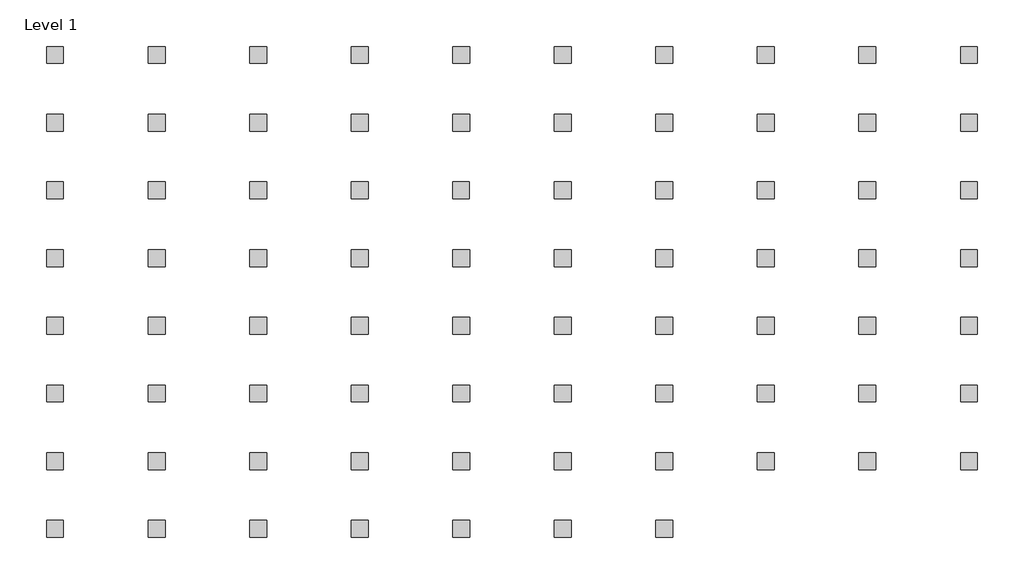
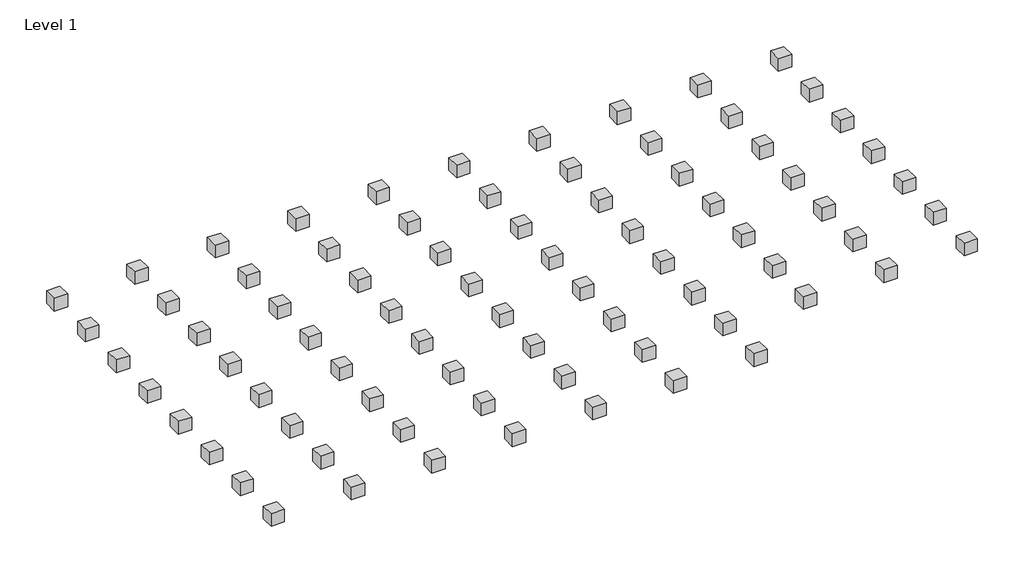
# One storey: 77 proxies.
"""IFC4 building model written with IfcOpenShell, lengths in millimetres."""

from ifc_helpers import new_model, si_unit, origin, place, context, project, spatial, transform, mapped, element, save
from components import proxy_1_2782416e, proxy_1_50e8c4e9, proxy_1_2d494ee5, proxy_1_6aff34ba, proxy_1_c3146b91, proxy_1_25e3fa1a, proxy_1_d043c502, proxy_1_c316cd3d, proxy_1_49adc76c, proxy_1_80903762, proxy_1_ae793e1a, proxy_1_2479e5df, proxy_1_aba14420, proxy_1_f1478c7e, proxy_1_89ec94bb, proxy_1_3710970e, proxy_1_aa82681c, proxy_1_0407d41d, proxy_1_ce66b29a, proxy_1_f5038394, proxy_1_b9940bfe, proxy_1_ebdf1aab, proxy_1_f2e2dbd0, proxy_1_6ed665f9, proxy_1_9805320a, proxy_1_b6302ffd, proxy_1_f575b489, proxy_1_a421b6c0, proxy_1_089240f8, proxy_1_e380e4dc, proxy_1_bed377d2, proxy_1_b49bc99f, proxy_1_c01c13fc, proxy_1_d7b62491, proxy_1_11dc02ac, proxy_1_2fb2cb73, proxy_1_e48f2c8b, proxy_1_ef48607b, proxy_1_42d40aa6, proxy_1_d886f2ce, proxy_1_1_93c13270, proxy_12_1_cf9d7331, proxy_121_1_6d52ab04, proxy_122_1_a73eb2b4, proxy_1221_1_1ebcc772, proxy_12211_1_91fec649, proxy_122111_1_8a0e9cde, proxy_1222_1_645f6b2f, proxy_12221_1_fe18749b, proxy_122211_1_c931f82f, proxy_122212_1_969e0d6c, proxy_12222_1_6f8a0e2f, proxy_122221_1_a3bcdc7e, proxy_1223_1_8651d323, proxy_12231_1_e93e3e78, proxy_122311_1_c1ad2dc2, proxy_123_1_c0a6e036, proxy_1231_1_4cfde164, proxy_12311_1_553b1de8, proxy_123111_1_0379a0e4, proxy_124_1_e1c1178d, proxy_1241_1_b3bbd234, proxy_12411_1_0cb6ce3b, proxy_124111_1_333161a3, proxy_125_1_ba956c72, proxy_1251_1_fea39731, proxy_12511_1_5074e58f, proxy_125111_1_22ede781, proxy_126_1_2db42401, proxy_1261_1_7993b1d7, proxy_12611_1_bfa230e9, proxy_127_1_18f8452b, proxy_1271_1_d034cdbb, proxy_12711_1_b4b7b839, proxy_128_1_ce818b8a, proxy_1281_1_40a85a4f, proxy_129_1_60290f64

model = new_model("IFC4")

# Units and contexts
model_context = context("Model", 3, world=origin())
ifc_project = project(units=[si_unit("LENGTHUNIT", "METRE", prefix="MILLI")], contexts=[model_context])

# Site, building, storey
site = spatial("IfcSite", under=ifc_project)
building = spatial("IfcBuilding", under=site)
storey = spatial("IfcBuildingStorey", under=building, Name="Level 1", Elevation=0.0)

# Proxies
placement = place(None, origin())
proxy_1_shape = proxy_1_2782416e(model_context)
element("IfcBuildingElementProxy", 1, Name="1221111 : 1", ObjectType="1221111 : 1", at=placement, inside=storey, context=model_context, shape_type="MappedRepresentation", body=[
    mapped(proxy_1_shape, transform((0.0, -6000.0, 0.0), x_axis=(1.0, 0.0, 0.0), y_axis=(0.0, 1.0, 0.0), z_axis=(0.0, 0.0, 1.0))),
])
proxy_1_2_shape = proxy_1_50e8c4e9(model_context)
element("IfcBuildingElementProxy", 2, Name="1222111 : 1", ObjectType="1222111 : 1", at=placement, inside=storey, context=model_context, shape_type="MappedRepresentation", body=[
    mapped(proxy_1_2_shape, transform((0.0, 0.0, 0.0), x_axis=(1.0, 0.0, 0.0), y_axis=(0.0, 1.0, 0.0), z_axis=(0.0, 0.0, 1.0))),
])
proxy_1_3_shape = proxy_1_2d494ee5(model_context)
element("IfcBuildingElementProxy", 3, Name="12211111 : 1", ObjectType="12211111 : 1", at=placement, inside=storey, context=model_context, shape_type="MappedRepresentation", body=[
    mapped(proxy_1_3_shape, transform((0.0, 0.0, 0.0), x_axis=(1.0, 0.0, 0.0), y_axis=(0.0, 1.0, 0.0), z_axis=(0.0, 0.0, 1.0))),
])
proxy_1_4_shape = proxy_1_6aff34ba(model_context)
element("IfcBuildingElementProxy", 4, Name="12221111 : 1", ObjectType="12221111 : 1", at=placement, inside=storey, context=model_context, shape_type="MappedRepresentation", body=[
    mapped(proxy_1_4_shape, transform((0.0, 0.0, 0.0), x_axis=(1.0, 0.0, 0.0), y_axis=(0.0, 1.0, 0.0), z_axis=(0.0, 0.0, 1.0))),
])
proxy_1_5_shape = proxy_1_c3146b91(model_context)
element("IfcBuildingElementProxy", 5, Name="122111111 : 1", ObjectType="122111111 : 1", at=placement, inside=storey, context=model_context, shape_type="MappedRepresentation", body=[
    mapped(proxy_1_5_shape, transform((0.0, 0.0, 0.0), x_axis=(1.0, 0.0, 0.0), y_axis=(0.0, 1.0, 0.0), z_axis=(0.0, 0.0, 1.0))),
])
proxy_1_6_shape = proxy_1_25e3fa1a(model_context)
element("IfcBuildingElementProxy", 6, Name="122211111 : 1", ObjectType="122211111 : 1", at=placement, inside=storey, context=model_context, shape_type="MappedRepresentation", body=[
    mapped(proxy_1_6_shape, transform((0.0, 0.0, 0.0), x_axis=(1.0, 0.0, 0.0), y_axis=(0.0, 1.0, 0.0), z_axis=(0.0, 0.0, 1.0))),
])
proxy_1_7_shape = proxy_1_d043c502(model_context)
element("IfcBuildingElementProxy", 7, Name="1221111111 : 1", ObjectType="1221111111 : 1", at=placement, inside=storey, context=model_context, shape_type="MappedRepresentation", body=[
    mapped(proxy_1_7_shape, transform((0.0, 0.0, 0.0), x_axis=(1.0, 0.0, 0.0), y_axis=(0.0, 1.0, 0.0), z_axis=(0.0, 0.0, 1.0))),
])
proxy_1_8_shape = proxy_1_c316cd3d(model_context)
element("IfcBuildingElementProxy", 8, Name="1222111111 : 1", ObjectType="1222111111 : 1", at=placement, inside=storey, context=model_context, shape_type="MappedRepresentation", body=[
    mapped(proxy_1_8_shape, transform((0.0, 0.0, 0.0), x_axis=(1.0, 0.0, 0.0), y_axis=(0.0, 1.0, 0.0), z_axis=(0.0, 0.0, 1.0))),
])
proxy_1_9_shape = proxy_1_49adc76c(model_context)
element("IfcBuildingElementProxy", 9, Name="12211111111 : 1", ObjectType="12211111111 : 1", at=placement, inside=storey, context=model_context, shape_type="MappedRepresentation", body=[
    mapped(proxy_1_9_shape, transform((0.0, 0.0, 0.0), x_axis=(1.0, 0.0, 0.0), y_axis=(0.0, 1.0, 0.0), z_axis=(0.0, 0.0, 1.0))),
])
proxy_1_10_shape = proxy_1_80903762(model_context)
element("IfcBuildingElementProxy", 10, Name="12221111111 : 1", ObjectType="12221111111 : 1", at=placement, inside=storey, context=model_context, shape_type="MappedRepresentation", body=[
    mapped(proxy_1_10_shape, transform((0.0, 0.0, 0.0), x_axis=(1.0, 0.0, 0.0), y_axis=(0.0, 1.0, 0.0), z_axis=(0.0, 0.0, 1.0))),
])
proxy_1_11_shape = proxy_1_ae793e1a(model_context)
element("IfcBuildingElementProxy", 11, Name="1222112 : 1", ObjectType="1222112 : 1", at=placement, inside=storey, context=model_context, shape_type="MappedRepresentation", body=[
    mapped(proxy_1_11_shape, transform((0.0, 0.0, 0.0), x_axis=(1.0, 0.0, 0.0), y_axis=(0.0, 1.0, 0.0), z_axis=(0.0, 0.0, 1.0))),
])
proxy_1_12_shape = proxy_1_2479e5df(model_context)
element("IfcBuildingElementProxy", 12, Name="12221112 : 1", ObjectType="12221112 : 1", at=placement, inside=storey, context=model_context, shape_type="MappedRepresentation", body=[
    mapped(proxy_1_12_shape, transform((0.0, 0.0, 0.0), x_axis=(1.0, 0.0, 0.0), y_axis=(0.0, 1.0, 0.0), z_axis=(0.0, 0.0, 1.0))),
])
proxy_1_13_shape = proxy_1_aba14420(model_context)
element("IfcBuildingElementProxy", 13, Name="122211112 : 1", ObjectType="122211112 : 1", at=placement, inside=storey, context=model_context, shape_type="MappedRepresentation", body=[
    mapped(proxy_1_13_shape, transform((0.0, 0.0, 0.0), x_axis=(1.0, 0.0, 0.0), y_axis=(0.0, 1.0, 0.0), z_axis=(0.0, 0.0, 1.0))),
])
proxy_1_14_shape = proxy_1_f1478c7e(model_context)
element("IfcBuildingElementProxy", 14, Name="1222111112 : 1", ObjectType="1222111112 : 1", at=placement, inside=storey, context=model_context, shape_type="MappedRepresentation", body=[
    mapped(proxy_1_14_shape, transform((0.0, 0.0, 0.0), x_axis=(1.0, 0.0, 0.0), y_axis=(0.0, 1.0, 0.0), z_axis=(0.0, 0.0, 1.0))),
])
proxy_1_15_shape = proxy_1_89ec94bb(model_context)
element("IfcBuildingElementProxy", 15, Name="12221111112 : 1", ObjectType="12221111112 : 1", at=placement, inside=storey, context=model_context, shape_type="MappedRepresentation", body=[
    mapped(proxy_1_15_shape, transform((0.0, 0.0, 0.0), x_axis=(1.0, 0.0, 0.0), y_axis=(0.0, 1.0, 0.0), z_axis=(0.0, 0.0, 1.0))),
])
proxy_1_16_shape = proxy_1_3710970e(model_context)
element("IfcBuildingElementProxy", 16, Name="1222121 : 1", ObjectType="1222121 : 1", at=placement, inside=storey, context=model_context, shape_type="MappedRepresentation", body=[
    mapped(proxy_1_16_shape, transform((0.0, 0.0, 0.0), x_axis=(1.0, 0.0, 0.0), y_axis=(0.0, 1.0, 0.0), z_axis=(0.0, 0.0, 1.0))),
])
proxy_1_17_shape = proxy_1_aa82681c(model_context)
element("IfcBuildingElementProxy", 17, Name="12221121 : 1", ObjectType="12221121 : 1", at=placement, inside=storey, context=model_context, shape_type="MappedRepresentation", body=[
    mapped(proxy_1_17_shape, transform((0.0, 0.0, 0.0), x_axis=(1.0, 0.0, 0.0), y_axis=(0.0, 1.0, 0.0), z_axis=(0.0, 0.0, 1.0))),
])
proxy_1_18_shape = proxy_1_0407d41d(model_context)
element("IfcBuildingElementProxy", 18, Name="122211121 : 1", ObjectType="122211121 : 1", at=placement, inside=storey, context=model_context, shape_type="MappedRepresentation", body=[
    mapped(proxy_1_18_shape, transform((0.0, 0.0, 0.0), x_axis=(1.0, 0.0, 0.0), y_axis=(0.0, 1.0, 0.0), z_axis=(0.0, 0.0, 1.0))),
])
proxy_1_19_shape = proxy_1_ce66b29a(model_context)
element("IfcBuildingElementProxy", 19, Name="1222111121 : 1", ObjectType="1222111121 : 1", at=placement, inside=storey, context=model_context, shape_type="MappedRepresentation", body=[
    mapped(proxy_1_19_shape, transform((0.0, 0.0, 0.0), x_axis=(1.0, 0.0, 0.0), y_axis=(0.0, 1.0, 0.0), z_axis=(0.0, 0.0, 1.0))),
])
proxy_1_20_shape = proxy_1_f5038394(model_context)
element("IfcBuildingElementProxy", 20, Name="12221111121 : 1", ObjectType="12221111121 : 1", at=placement, inside=storey, context=model_context, shape_type="MappedRepresentation", body=[
    mapped(proxy_1_20_shape, transform((0.0, 0.0, 0.0), x_axis=(1.0, 0.0, 0.0), y_axis=(0.0, 1.0, 0.0), z_axis=(0.0, 0.0, 1.0))),
])
proxy_1_21_shape = proxy_1_b9940bfe(model_context)
element("IfcBuildingElementProxy", 21, Name="1222211 : 1", ObjectType="1222211 : 1", at=placement, inside=storey, context=model_context, shape_type="MappedRepresentation", body=[
    mapped(proxy_1_21_shape, transform((0.0, 0.0, 0.0), x_axis=(1.0, 0.0, 0.0), y_axis=(0.0, 1.0, 0.0), z_axis=(0.0, 0.0, 1.0))),
])
proxy_1_22_shape = proxy_1_ebdf1aab(model_context)
element("IfcBuildingElementProxy", 22, Name="12221211 : 1", ObjectType="12221211 : 1", at=placement, inside=storey, context=model_context, shape_type="MappedRepresentation", body=[
    mapped(proxy_1_22_shape, transform((0.0, 0.0, 0.0), x_axis=(1.0, 0.0, 0.0), y_axis=(0.0, 1.0, 0.0), z_axis=(0.0, 0.0, 1.0))),
])
proxy_1_23_shape = proxy_1_f2e2dbd0(model_context)
element("IfcBuildingElementProxy", 23, Name="122211211 : 1", ObjectType="122211211 : 1", at=placement, inside=storey, context=model_context, shape_type="MappedRepresentation", body=[
    mapped(proxy_1_23_shape, transform((0.0, 0.0, 0.0), x_axis=(1.0, 0.0, 0.0), y_axis=(0.0, 1.0, 0.0), z_axis=(0.0, 0.0, 1.0))),
])
proxy_1_24_shape = proxy_1_6ed665f9(model_context)
element("IfcBuildingElementProxy", 24, Name="1222111211 : 1", ObjectType="1222111211 : 1", at=placement, inside=storey, context=model_context, shape_type="MappedRepresentation", body=[
    mapped(proxy_1_24_shape, transform((0.0, 0.0, 0.0), x_axis=(1.0, 0.0, 0.0), y_axis=(0.0, 1.0, 0.0), z_axis=(0.0, 0.0, 1.0))),
])
proxy_1_25_shape = proxy_1_9805320a(model_context)
element("IfcBuildingElementProxy", 25, Name="12221111211 : 1", ObjectType="12221111211 : 1", at=placement, inside=storey, context=model_context, shape_type="MappedRepresentation", body=[
    mapped(proxy_1_25_shape, transform((0.0, 0.0, 0.0), x_axis=(1.0, 0.0, 0.0), y_axis=(0.0, 1.0, 0.0), z_axis=(0.0, 0.0, 1.0))),
])
proxy_1_26_shape = proxy_1_b6302ffd(model_context)
element("IfcBuildingElementProxy", 26, Name="1223111 : 1", ObjectType="1223111 : 1", at=placement, inside=storey, context=model_context, shape_type="MappedRepresentation", body=[
    mapped(proxy_1_26_shape, transform((0.0, 0.0, 0.0), x_axis=(1.0, 0.0, 0.0), y_axis=(0.0, 1.0, 0.0), z_axis=(0.0, 0.0, 1.0))),
])
proxy_1_27_shape = proxy_1_f575b489(model_context)
element("IfcBuildingElementProxy", 27, Name="12222111 : 1", ObjectType="12222111 : 1", at=placement, inside=storey, context=model_context, shape_type="MappedRepresentation", body=[
    mapped(proxy_1_27_shape, transform((0.0, 0.0, 0.0), x_axis=(1.0, 0.0, 0.0), y_axis=(0.0, 1.0, 0.0), z_axis=(0.0, 0.0, 1.0))),
])
proxy_1_28_shape = proxy_1_a421b6c0(model_context)
element("IfcBuildingElementProxy", 28, Name="122212111 : 1", ObjectType="122212111 : 1", at=placement, inside=storey, context=model_context, shape_type="MappedRepresentation", body=[
    mapped(proxy_1_28_shape, transform((0.0, 0.0, 0.0), x_axis=(1.0, 0.0, 0.0), y_axis=(0.0, 1.0, 0.0), z_axis=(0.0, 0.0, 1.0))),
])
proxy_1_29_shape = proxy_1_089240f8(model_context)
element("IfcBuildingElementProxy", 29, Name="1222112111 : 1", ObjectType="1222112111 : 1", at=placement, inside=storey, context=model_context, shape_type="MappedRepresentation", body=[
    mapped(proxy_1_29_shape, transform((0.0, 0.0, 0.0), x_axis=(1.0, 0.0, 0.0), y_axis=(0.0, 1.0, 0.0), z_axis=(0.0, 0.0, 1.0))),
])
proxy_1_30_shape = proxy_1_e380e4dc(model_context)
element("IfcBuildingElementProxy", 30, Name="12221112111 : 1", ObjectType="12221112111 : 1", at=placement, inside=storey, context=model_context, shape_type="MappedRepresentation", body=[
    mapped(proxy_1_30_shape, transform((0.0, 0.0, 0.0), x_axis=(1.0, 0.0, 0.0), y_axis=(0.0, 1.0, 0.0), z_axis=(0.0, 0.0, 1.0))),
])
proxy_1_31_shape = proxy_1_bed377d2(model_context)
element("IfcBuildingElementProxy", 31, Name="1231111 : 1", ObjectType="1231111 : 1", at=placement, inside=storey, context=model_context, shape_type="MappedRepresentation", body=[
    mapped(proxy_1_31_shape, transform((0.0, 0.0, 0.0), x_axis=(1.0, 0.0, 0.0), y_axis=(0.0, 1.0, 0.0), z_axis=(0.0, 0.0, 1.0))),
])
proxy_1_32_shape = proxy_1_b49bc99f(model_context)
element("IfcBuildingElementProxy", 32, Name="12231111 : 1", ObjectType="12231111 : 1", at=placement, inside=storey, context=model_context, shape_type="MappedRepresentation", body=[
    mapped(proxy_1_32_shape, transform((0.0, 0.0, 0.0), x_axis=(1.0, 0.0, 0.0), y_axis=(0.0, 1.0, 0.0), z_axis=(0.0, 0.0, 1.0))),
])
proxy_1_33_shape = proxy_1_c01c13fc(model_context)
element("IfcBuildingElementProxy", 33, Name="122221111 : 1", ObjectType="122221111 : 1", at=placement, inside=storey, context=model_context, shape_type="MappedRepresentation", body=[
    mapped(proxy_1_33_shape, transform((0.0, 0.0, 0.0), x_axis=(1.0, 0.0, 0.0), y_axis=(0.0, 1.0, 0.0), z_axis=(0.0, 0.0, 1.0))),
])
proxy_1_34_shape = proxy_1_d7b62491(model_context)
element("IfcBuildingElementProxy", 34, Name="1222121111 : 1", ObjectType="1222121111 : 1", at=placement, inside=storey, context=model_context, shape_type="MappedRepresentation", body=[
    mapped(proxy_1_34_shape, transform((0.0, 0.0, 0.0), x_axis=(1.0, 0.0, 0.0), y_axis=(0.0, 1.0, 0.0), z_axis=(0.0, 0.0, 1.0))),
])
proxy_1_35_shape = proxy_1_11dc02ac(model_context)
element("IfcBuildingElementProxy", 35, Name="12221121111 : 1", ObjectType="12221121111 : 1", at=placement, inside=storey, context=model_context, shape_type="MappedRepresentation", body=[
    mapped(proxy_1_35_shape, transform((0.0, 0.0, 0.0), x_axis=(1.0, 0.0, 0.0), y_axis=(0.0, 1.0, 0.0), z_axis=(0.0, 0.0, 1.0))),
])
proxy_1_36_shape = proxy_1_2fb2cb73(model_context)
element("IfcBuildingElementProxy", 36, Name="1241111 : 1", ObjectType="1241111 : 1", at=placement, inside=storey, context=model_context, shape_type="MappedRepresentation", body=[
    mapped(proxy_1_36_shape, transform((0.0, 0.0, 0.0), x_axis=(1.0, 0.0, 0.0), y_axis=(0.0, 1.0, 0.0), z_axis=(0.0, 0.0, 1.0))),
])
proxy_1_37_shape = proxy_1_e48f2c8b(model_context)
element("IfcBuildingElementProxy", 37, Name="12311111 : 1", ObjectType="12311111 : 1", at=placement, inside=storey, context=model_context, shape_type="MappedRepresentation", body=[
    mapped(proxy_1_37_shape, transform((0.0, 0.0, 0.0), x_axis=(1.0, 0.0, 0.0), y_axis=(0.0, 1.0, 0.0), z_axis=(0.0, 0.0, 1.0))),
])
proxy_1_38_shape = proxy_1_ef48607b(model_context)
element("IfcBuildingElementProxy", 38, Name="122311111 : 1", ObjectType="122311111 : 1", at=placement, inside=storey, context=model_context, shape_type="MappedRepresentation", body=[
    mapped(proxy_1_38_shape, transform((0.0, 0.0, 0.0), x_axis=(1.0, 0.0, 0.0), y_axis=(0.0, 1.0, 0.0), z_axis=(0.0, 0.0, 1.0))),
])
proxy_1_39_shape = proxy_1_42d40aa6(model_context)
element("IfcBuildingElementProxy", 39, Name="1222211111 : 1", ObjectType="1222211111 : 1", at=placement, inside=storey, context=model_context, shape_type="MappedRepresentation", body=[
    mapped(proxy_1_39_shape, transform((0.0, 0.0, 0.0), x_axis=(1.0, 0.0, 0.0), y_axis=(0.0, 1.0, 0.0), z_axis=(0.0, 0.0, 1.0))),
])
proxy_1_40_shape = proxy_1_d886f2ce(model_context)
element("IfcBuildingElementProxy", 40, Name="12221211111 : 1", ObjectType="12221211111 : 1", at=placement, inside=storey, context=model_context, shape_type="MappedRepresentation", body=[
    mapped(proxy_1_40_shape, transform((0.0, 0.0, 0.0), x_axis=(1.0, 0.0, 0.0), y_axis=(0.0, 1.0, 0.0), z_axis=(0.0, 0.0, 1.0))),
])
proxy_1_1_shape = proxy_1_1_93c13270(model_context)
element("IfcBuildingElementProxy", 41, Name="1 : 1", ObjectType="1 : 1", at=placement, inside=storey, context=model_context, shape_type="MappedRepresentation", body=[
    mapped(proxy_1_1_shape, transform((-13200.0, 4500.0, 0.0), x_axis=(1.0, 0.0, 0.0), y_axis=(0.0, 1.0, 0.0), z_axis=(0.0, 0.0, 1.0))),
])
proxy_12_1_shape = proxy_12_1_cf9d7331(model_context)
element("IfcBuildingElementProxy", 42, Name="12 : 1", ObjectType="12 : 1", at=placement, inside=storey, context=model_context, shape_type="MappedRepresentation", body=[
    mapped(proxy_12_1_shape, transform((0.0, 0.0, 0.0), x_axis=(1.0, 0.0, 0.0), y_axis=(0.0, 1.0, 0.0), z_axis=(0.0, 0.0, 1.0))),
])
proxy_121_1_shape = proxy_121_1_6d52ab04(model_context)
element("IfcBuildingElementProxy", 43, Name="121 : 1", ObjectType="121 : 1", at=placement, inside=storey, context=model_context, shape_type="MappedRepresentation", body=[
    mapped(proxy_121_1_shape, transform((0.0, 0.0, 0.0), x_axis=(1.0, 0.0, 0.0), y_axis=(0.0, 1.0, 0.0), z_axis=(0.0, 0.0, 1.0))),
])
proxy_122_1_shape = proxy_122_1_a73eb2b4(model_context)
element("IfcBuildingElementProxy", 44, Name="122 : 1", ObjectType="122 : 1", at=placement, inside=storey, context=model_context, shape_type="MappedRepresentation", body=[
    mapped(proxy_122_1_shape, transform((0.0, 0.0, 0.0), x_axis=(1.0, 0.0, 0.0), y_axis=(0.0, 1.0, 0.0), z_axis=(0.0, 0.0, 1.0))),
])
proxy_1221_1_shape = proxy_1221_1_1ebcc772(model_context)
element("IfcBuildingElementProxy", 45, Name="1221 : 1", ObjectType="1221 : 1", at=placement, inside=storey, context=model_context, shape_type="MappedRepresentation", body=[
    mapped(proxy_1221_1_shape, transform((0.0, -6000.0, 0.0), x_axis=(1.0, 0.0, 0.0), y_axis=(0.0, 1.0, 0.0), z_axis=(0.0, 0.0, 1.0))),
])
proxy_12211_1_shape = proxy_12211_1_91fec649(model_context)
element("IfcBuildingElementProxy", 46, Name="12211 : 1", ObjectType="12211 : 1", at=placement, inside=storey, context=model_context, shape_type="MappedRepresentation", body=[
    mapped(proxy_12211_1_shape, transform((0.0, -6000.0, 0.0), x_axis=(1.0, 0.0, 0.0), y_axis=(0.0, 1.0, 0.0), z_axis=(0.0, 0.0, 1.0))),
])
proxy_122111_1_shape = proxy_122111_1_8a0e9cde(model_context)
element("IfcBuildingElementProxy", 47, Name="122111 : 1", ObjectType="122111 : 1", at=placement, inside=storey, context=model_context, shape_type="MappedRepresentation", body=[
    mapped(proxy_122111_1_shape, transform((0.0, -6000.0, 0.0), x_axis=(1.0, 0.0, 0.0), y_axis=(0.0, 1.0, 0.0), z_axis=(0.0, 0.0, 1.0))),
])
proxy_1222_1_shape = proxy_1222_1_645f6b2f(model_context)
element("IfcBuildingElementProxy", 48, Name="1222 : 1", ObjectType="1222 : 1", at=placement, inside=storey, context=model_context, shape_type="MappedRepresentation", body=[
    mapped(proxy_1222_1_shape, transform((0.0, 0.0, 0.0), x_axis=(1.0, 0.0, 0.0), y_axis=(0.0, 1.0, 0.0), z_axis=(0.0, 0.0, 1.0))),
])
proxy_12221_1_shape = proxy_12221_1_fe18749b(model_context)
element("IfcBuildingElementProxy", 49, Name="12221 : 1", ObjectType="12221 : 1", at=placement, inside=storey, context=model_context, shape_type="MappedRepresentation", body=[
    mapped(proxy_12221_1_shape, transform((0.0, 0.0, 0.0), x_axis=(1.0, 0.0, 0.0), y_axis=(0.0, 1.0, 0.0), z_axis=(0.0, 0.0, 1.0))),
])
proxy_122211_1_shape = proxy_122211_1_c931f82f(model_context)
element("IfcBuildingElementProxy", 50, Name="122211 : 1", ObjectType="122211 : 1", at=placement, inside=storey, context=model_context, shape_type="MappedRepresentation", body=[
    mapped(proxy_122211_1_shape, transform((0.0, 0.0, 0.0), x_axis=(1.0, 0.0, 0.0), y_axis=(0.0, 1.0, 0.0), z_axis=(0.0, 0.0, 1.0))),
])
proxy_122212_1_shape = proxy_122212_1_969e0d6c(model_context)
element("IfcBuildingElementProxy", 51, Name="122212 : 1", ObjectType="122212 : 1", at=placement, inside=storey, context=model_context, shape_type="MappedRepresentation", body=[
    mapped(proxy_122212_1_shape, transform((0.0, 0.0, 0.0), x_axis=(1.0, 0.0, 0.0), y_axis=(0.0, 1.0, 0.0), z_axis=(0.0, 0.0, 1.0))),
])
proxy_12222_1_shape = proxy_12222_1_6f8a0e2f(model_context)
element("IfcBuildingElementProxy", 52, Name="12222 : 1", ObjectType="12222 : 1", at=placement, inside=storey, context=model_context, shape_type="MappedRepresentation", body=[
    mapped(proxy_12222_1_shape, transform((0.0, 0.0, 0.0), x_axis=(1.0, 0.0, 0.0), y_axis=(0.0, 1.0, 0.0), z_axis=(0.0, 0.0, 1.0))),
])
proxy_122221_1_shape = proxy_122221_1_a3bcdc7e(model_context)
element("IfcBuildingElementProxy", 53, Name="122221 : 1", ObjectType="122221 : 1", at=placement, inside=storey, context=model_context, shape_type="MappedRepresentation", body=[
    mapped(proxy_122221_1_shape, transform((0.0, 0.0, 0.0), x_axis=(1.0, 0.0, 0.0), y_axis=(0.0, 1.0, 0.0), z_axis=(0.0, 0.0, 1.0))),
])
proxy_1223_1_shape = proxy_1223_1_8651d323(model_context)
element("IfcBuildingElementProxy", 54, Name="1223 : 1", ObjectType="1223 : 1", at=placement, inside=storey, context=model_context, shape_type="MappedRepresentation", body=[
    mapped(proxy_1223_1_shape, transform((0.0, 0.0, 0.0), x_axis=(1.0, 0.0, 0.0), y_axis=(0.0, 1.0, 0.0), z_axis=(0.0, 0.0, 1.0))),
])
proxy_12231_1_shape = proxy_12231_1_e93e3e78(model_context)
element("IfcBuildingElementProxy", 55, Name="12231 : 1", ObjectType="12231 : 1", at=placement, inside=storey, context=model_context, shape_type="MappedRepresentation", body=[
    mapped(proxy_12231_1_shape, transform((0.0, 0.0, 0.0), x_axis=(1.0, 0.0, 0.0), y_axis=(0.0, 1.0, 0.0), z_axis=(0.0, 0.0, 1.0))),
])
proxy_122311_1_shape = proxy_122311_1_c1ad2dc2(model_context)
element("IfcBuildingElementProxy", 56, Name="122311 : 1", ObjectType="122311 : 1", at=placement, inside=storey, context=model_context, shape_type="MappedRepresentation", body=[
    mapped(proxy_122311_1_shape, transform((0.0, 0.0, 0.0), x_axis=(1.0, 0.0, 0.0), y_axis=(0.0, 1.0, 0.0), z_axis=(0.0, 0.0, 1.0))),
])
proxy_123_1_shape = proxy_123_1_c0a6e036(model_context)
element("IfcBuildingElementProxy", 57, Name="123 : 1", ObjectType="123 : 1", at=placement, inside=storey, context=model_context, shape_type="MappedRepresentation", body=[
    mapped(proxy_123_1_shape, transform((0.0, 0.0, 0.0), x_axis=(1.0, 0.0, 0.0), y_axis=(0.0, 1.0, 0.0), z_axis=(0.0, 0.0, 1.0))),
])
proxy_1231_1_shape = proxy_1231_1_4cfde164(model_context)
element("IfcBuildingElementProxy", 58, Name="1231 : 1", ObjectType="1231 : 1", at=placement, inside=storey, context=model_context, shape_type="MappedRepresentation", body=[
    mapped(proxy_1231_1_shape, transform((0.0, 0.0, 0.0), x_axis=(1.0, 0.0, 0.0), y_axis=(0.0, 1.0, 0.0), z_axis=(0.0, 0.0, 1.0))),
])
proxy_12311_1_shape = proxy_12311_1_553b1de8(model_context)
element("IfcBuildingElementProxy", 59, Name="12311 : 1", ObjectType="12311 : 1", at=placement, inside=storey, context=model_context, shape_type="MappedRepresentation", body=[
    mapped(proxy_12311_1_shape, transform((0.0, 0.0, 0.0), x_axis=(1.0, 0.0, 0.0), y_axis=(0.0, 1.0, 0.0), z_axis=(0.0, 0.0, 1.0))),
])
proxy_123111_1_shape = proxy_123111_1_0379a0e4(model_context)
element("IfcBuildingElementProxy", 60, Name="123111 : 1", ObjectType="123111 : 1", at=placement, inside=storey, context=model_context, shape_type="MappedRepresentation", body=[
    mapped(proxy_123111_1_shape, transform((0.0, 0.0, 0.0), x_axis=(1.0, 0.0, 0.0), y_axis=(0.0, 1.0, 0.0), z_axis=(0.0, 0.0, 1.0))),
])
proxy_124_1_shape = proxy_124_1_e1c1178d(model_context)
element("IfcBuildingElementProxy", 61, Name="124 : 1", ObjectType="124 : 1", at=placement, inside=storey, context=model_context, shape_type="MappedRepresentation", body=[
    mapped(proxy_124_1_shape, transform((0.0, 0.0, 0.0), x_axis=(1.0, 0.0, 0.0), y_axis=(0.0, 1.0, 0.0), z_axis=(0.0, 0.0, 1.0))),
])
proxy_1241_1_shape = proxy_1241_1_b3bbd234(model_context)
element("IfcBuildingElementProxy", 62, Name="1241 : 1", ObjectType="1241 : 1", at=placement, inside=storey, context=model_context, shape_type="MappedRepresentation", body=[
    mapped(proxy_1241_1_shape, transform((0.0, 0.0, 0.0), x_axis=(1.0, 0.0, 0.0), y_axis=(0.0, 1.0, 0.0), z_axis=(0.0, 0.0, 1.0))),
])
proxy_12411_1_shape = proxy_12411_1_0cb6ce3b(model_context)
element("IfcBuildingElementProxy", 63, Name="12411 : 1", ObjectType="12411 : 1", at=placement, inside=storey, context=model_context, shape_type="MappedRepresentation", body=[
    mapped(proxy_12411_1_shape, transform((0.0, 0.0, 0.0), x_axis=(1.0, 0.0, 0.0), y_axis=(0.0, 1.0, 0.0), z_axis=(0.0, 0.0, 1.0))),
])
proxy_124111_1_shape = proxy_124111_1_333161a3(model_context)
element("IfcBuildingElementProxy", 64, Name="124111 : 1", ObjectType="124111 : 1", at=placement, inside=storey, context=model_context, shape_type="MappedRepresentation", body=[
    mapped(proxy_124111_1_shape, transform((0.0, 0.0, 0.0), x_axis=(1.0, 0.0, 0.0), y_axis=(0.0, 1.0, 0.0), z_axis=(0.0, 0.0, 1.0))),
])
proxy_125_1_shape = proxy_125_1_ba956c72(model_context)
element("IfcBuildingElementProxy", 65, Name="125 : 1", ObjectType="125 : 1", at=placement, inside=storey, context=model_context, shape_type="MappedRepresentation", body=[
    mapped(proxy_125_1_shape, transform((0.0, 0.0, 0.0), x_axis=(1.0, 0.0, 0.0), y_axis=(0.0, 1.0, 0.0), z_axis=(0.0, 0.0, 1.0))),
])
proxy_1251_1_shape = proxy_1251_1_fea39731(model_context)
element("IfcBuildingElementProxy", 66, Name="1251 : 1", ObjectType="1251 : 1", at=placement, inside=storey, context=model_context, shape_type="MappedRepresentation", body=[
    mapped(proxy_1251_1_shape, transform((0.0, 0.0, 0.0), x_axis=(1.0, 0.0, 0.0), y_axis=(0.0, 1.0, 0.0), z_axis=(0.0, 0.0, 1.0))),
])
proxy_12511_1_shape = proxy_12511_1_5074e58f(model_context)
element("IfcBuildingElementProxy", 67, Name="12511 : 1", ObjectType="12511 : 1", at=placement, inside=storey, context=model_context, shape_type="MappedRepresentation", body=[
    mapped(proxy_12511_1_shape, transform((0.0, 0.0, 0.0), x_axis=(1.0, 0.0, 0.0), y_axis=(0.0, 1.0, 0.0), z_axis=(0.0, 0.0, 1.0))),
])
proxy_125111_1_shape = proxy_125111_1_22ede781(model_context)
element("IfcBuildingElementProxy", 68, Name="125111 : 1", ObjectType="125111 : 1", at=placement, inside=storey, context=model_context, shape_type="MappedRepresentation", body=[
    mapped(proxy_125111_1_shape, transform((0.0, 0.0, 0.0), x_axis=(1.0, 0.0, 0.0), y_axis=(0.0, 1.0, 0.0), z_axis=(0.0, 0.0, 1.0))),
])
proxy_126_1_shape = proxy_126_1_2db42401(model_context)
element("IfcBuildingElementProxy", 69, Name="126 : 1", ObjectType="126 : 1", at=placement, inside=storey, context=model_context, shape_type="MappedRepresentation", body=[
    mapped(proxy_126_1_shape, transform((0.0, 0.0, 0.0), x_axis=(1.0, 0.0, 0.0), y_axis=(0.0, 1.0, 0.0), z_axis=(0.0, 0.0, 1.0))),
])
proxy_1261_1_shape = proxy_1261_1_7993b1d7(model_context)
element("IfcBuildingElementProxy", 70, Name="1261 : 1", ObjectType="1261 : 1", at=placement, inside=storey, context=model_context, shape_type="MappedRepresentation", body=[
    mapped(proxy_1261_1_shape, transform((0.0, 0.0, 0.0), x_axis=(1.0, 0.0, 0.0), y_axis=(0.0, 1.0, 0.0), z_axis=(0.0, 0.0, 1.0))),
])
proxy_12611_1_shape = proxy_12611_1_bfa230e9(model_context)
element("IfcBuildingElementProxy", 71, Name="12611 : 1", ObjectType="12611 : 1", at=placement, inside=storey, context=model_context, shape_type="MappedRepresentation", body=[
    mapped(proxy_12611_1_shape, transform((0.0, 0.0, 0.0), x_axis=(1.0, 0.0, 0.0), y_axis=(0.0, 1.0, 0.0), z_axis=(0.0, 0.0, 1.0))),
])
proxy_127_1_shape = proxy_127_1_18f8452b(model_context)
element("IfcBuildingElementProxy", 72, Name="127 : 1", ObjectType="127 : 1", at=placement, inside=storey, context=model_context, shape_type="MappedRepresentation", body=[
    mapped(proxy_127_1_shape, transform((0.0, 0.0, 0.0), x_axis=(1.0, 0.0, 0.0), y_axis=(0.0, 1.0, 0.0), z_axis=(0.0, 0.0, 1.0))),
])
proxy_1271_1_shape = proxy_1271_1_d034cdbb(model_context)
element("IfcBuildingElementProxy", 73, Name="1271 : 1", ObjectType="1271 : 1", at=placement, inside=storey, context=model_context, shape_type="MappedRepresentation", body=[
    mapped(proxy_1271_1_shape, transform((0.0, 0.0, 0.0), x_axis=(1.0, 0.0, 0.0), y_axis=(0.0, 1.0, 0.0), z_axis=(0.0, 0.0, 1.0))),
])
proxy_12711_1_shape = proxy_12711_1_b4b7b839(model_context)
element("IfcBuildingElementProxy", 74, Name="12711 : 1", ObjectType="12711 : 1", at=placement, inside=storey, context=model_context, shape_type="MappedRepresentation", body=[
    mapped(proxy_12711_1_shape, transform((0.0, 0.0, 0.0), x_axis=(1.0, 0.0, 0.0), y_axis=(0.0, 1.0, 0.0), z_axis=(0.0, 0.0, 1.0))),
])
proxy_128_1_shape = proxy_128_1_ce818b8a(model_context)
element("IfcBuildingElementProxy", 75, Name="128 : 1", ObjectType="128 : 1", at=placement, inside=storey, context=model_context, shape_type="MappedRepresentation", body=[
    mapped(proxy_128_1_shape, transform((0.0, 0.0, 0.0), x_axis=(1.0, 0.0, 0.0), y_axis=(0.0, 1.0, 0.0), z_axis=(0.0, 0.0, 1.0))),
])
proxy_1281_1_shape = proxy_1281_1_40a85a4f(model_context)
element("IfcBuildingElementProxy", 76, Name="1281 : 1", ObjectType="1281 : 1", at=placement, inside=storey, context=model_context, shape_type="MappedRepresentation", body=[
    mapped(proxy_1281_1_shape, transform((0.0, 0.0, 0.0), x_axis=(1.0, 0.0, 0.0), y_axis=(0.0, 1.0, 0.0), z_axis=(0.0, 0.0, 1.0))),
])
proxy_129_1_shape = proxy_129_1_60290f64(model_context)
element("IfcBuildingElementProxy", 77, Name="129 : 1", ObjectType="129 : 1", at=placement, inside=storey, context=model_context, shape_type="MappedRepresentation", body=[
    mapped(proxy_129_1_shape, transform((0.0, 0.0, 0.0), x_axis=(1.0, 0.0, 0.0), y_axis=(0.0, 1.0, 0.0), z_axis=(0.0, 0.0, 1.0))),
])

save(model, "model.ifc")
